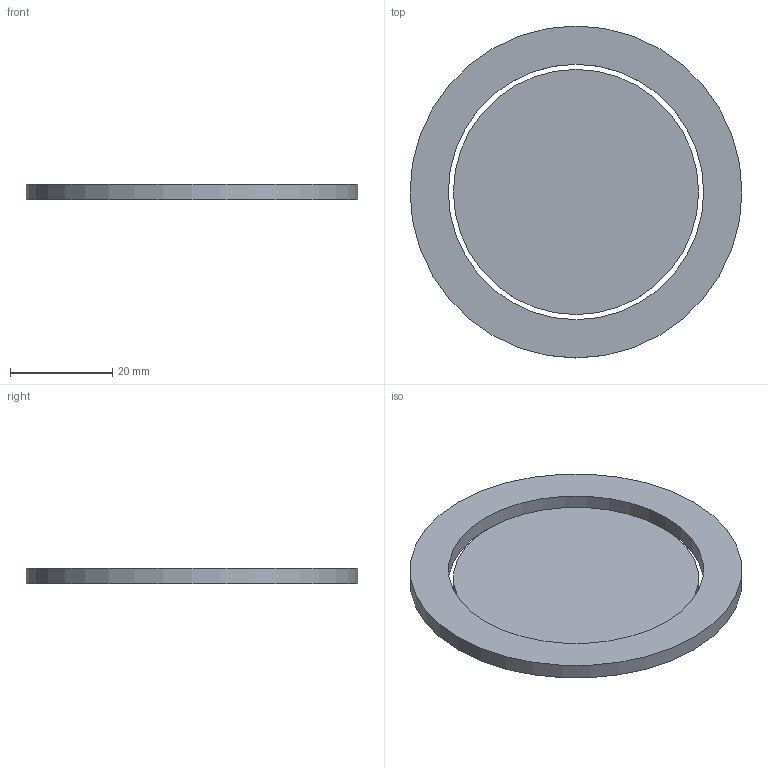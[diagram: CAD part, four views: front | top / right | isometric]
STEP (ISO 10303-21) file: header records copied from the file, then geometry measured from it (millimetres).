
FILE_DESCRIPTION(('FreeCAD Model'),'2;1');
FILE_NAME('/home/bluelambda/Documents/Arcade/meca/speaker_grid.step', '2016-04-01T18:19:22',('Author'),(''), 'Open CASCADE STEP processor 6.9','FreeCAD','Unknown');
FILE_SCHEMA(('AUTOMOTIVE_DESIGN { 1 0 10303 214 1 1 1 1 }'));
Length unit declared in the file: millimetre
Products named in the file (2): speaker_grid; speaker_grid_center
Bounding box: 65 x 65 x 3 mm (x, y, z)
Volume: 5874 mm3; surface area: 7563.4 mm2
Topology: 2 solids, 2 shells, 7 faces, 9 edges, 6 vertices
Faces by surface type: plane 4, cylinder 3
Full cylindrical faces by diameter (mm): 48 x1, 50 x1, 65 x1
Entity records: 310 total; most frequent: DIRECTION 49, CARTESIAN_POINT 41, ORIENTED_EDGE 18, PCURVE 18, DEFINITIONAL_REPRESENTATION 18, LINE 15, VECTOR 15, AXIS2_PLACEMENT_3D 14
